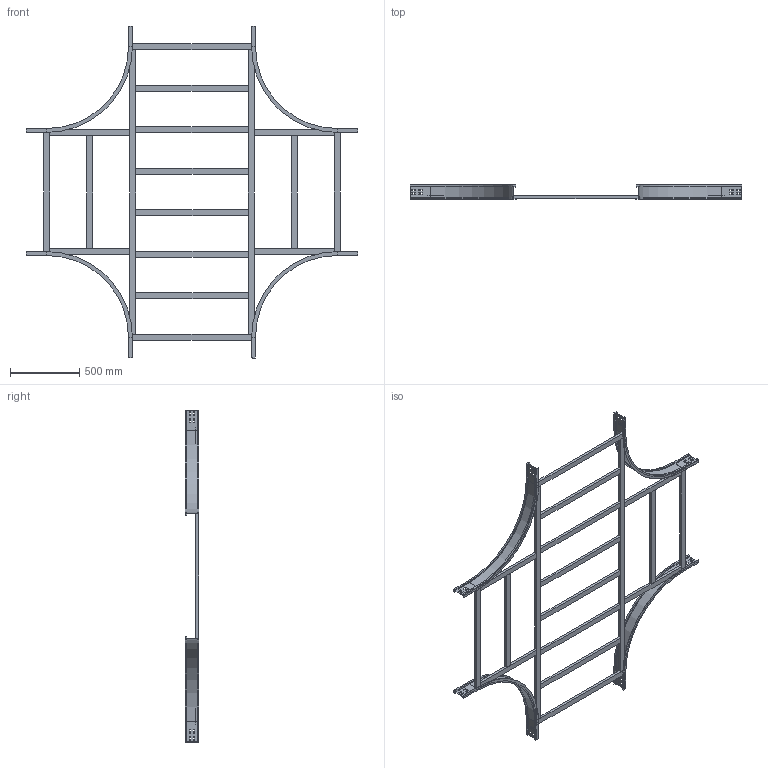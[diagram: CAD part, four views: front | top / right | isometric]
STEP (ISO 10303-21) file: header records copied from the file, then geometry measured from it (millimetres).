
FILE_DESCRIPTION (( 'STEP AP214' ), '1' );
FILE_NAME ('17S6D900.step', '2025-02-21T16:16:52', ( '' ), ( '' ), 'SwSTEP 2.0', 'SolidWorks 2023', '' );
FILE_SCHEMA (( 'AUTOMOTIVE_DESIGN' ));
Length unit declared in the file: millimetre
Products named in the file (7): TRAVERSINO_900; TRAVERSINO_COPPIA_900; LONGH.INTERNO 90°_H100_R600; 17S6D900; TRAVERSINO_LONG._R600+900; TRAVERSINO_VERT_R600; TRAVERSINO_INTERMEDIO_X_R600+900
Assembly tree (22 placements, depth 2):
  17S6D900
    LONGH.INTERNO 90°_H100_R600  x4
    TRAVERSINO_900  x4
    TRAVERSINO_LONG._R600+900  x2
    TRAVERSINO_INTERMEDIO_X_R600+900  x6
    TRAVERSINO_VERT_R600  x4
    TRAVERSINO_COPPIA_900  x2
Bounding box: 2400 x 100 x 2400 mm (x, y, z)
Volume: 16040671.9 mm3; surface area: 3505005 mm2
Topology: 22 solids, 22 shells, 388 faces, 936 edges, 592 vertices
Faces by surface type: plane 364, cylinder 24
Entity records: 3204 total; most frequent: CARTESIAN_POINT 517, DIRECTION 502, ORIENTED_EDGE 480, EDGE_CURVE 240, VECTOR 228, LINE 228, VERTEX_POINT 152, AXIS2_PLACEMENT_3D 137
